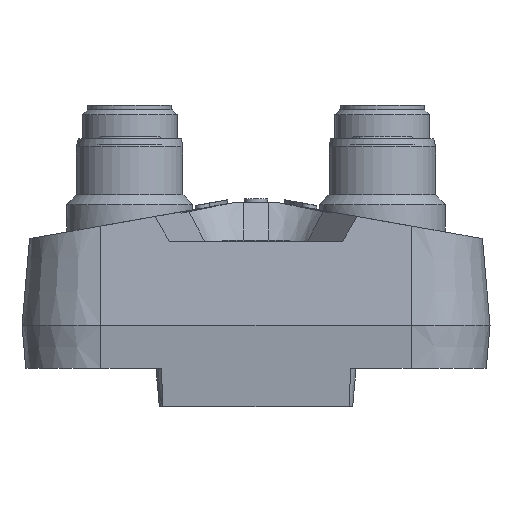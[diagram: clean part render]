
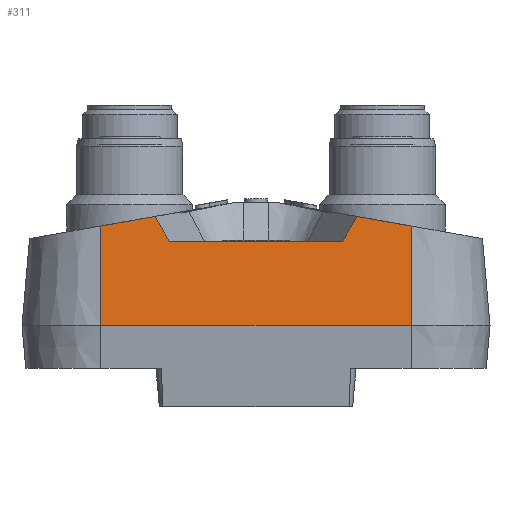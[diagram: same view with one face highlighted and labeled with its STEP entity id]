
A CAD part, front view. The second image highlights one B-rep face of the part: STEP entity #311.
In plain terms, the highlighted planar face has unit normal (0, -0.996, 0.087).
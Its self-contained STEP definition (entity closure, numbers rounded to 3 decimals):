
#311 = ADVANCED_FACE( '', ( #1087 ), #1088, .T. );
#1087 = FACE_OUTER_BOUND( '', #2151, .T. );
#1088 = PLANE( '', #2152 );
#2151 = EDGE_LOOP( '', ( #4338, #4339, #4340, #4341, #4342, #4343, #4344, #4345 ) );
#2152 = AXIS2_PLACEMENT_3D( '', #4346, #4347, #4348 );
#4338 = ORIENTED_EDGE( '', *, *, #6114, .F. );
#4339 = ORIENTED_EDGE( '', *, *, #6395, .F. );
#4340 = ORIENTED_EDGE( '', *, *, #6396, .T. );
#4341 = ORIENTED_EDGE( '', *, *, #5957, .T. );
#4342 = ORIENTED_EDGE( '', *, *, #6393, .F. );
#4343 = ORIENTED_EDGE( '', *, *, #6397, .F. );
#4344 = ORIENTED_EDGE( '', *, *, #6119, .F. );
#4345 = ORIENTED_EDGE( '', *, *, #6108, .F. );
#4346 = CARTESIAN_POINT( '', ( -19.65, 0., 0. ) );
#4347 = DIRECTION( '', ( 0., -0.996, 0.087 ) );
#4348 = DIRECTION( '', ( 0., -0.087, -0.996 ) );
#5957 = EDGE_CURVE( '', #7004, #7011, #7013, .T. );
#6108 = EDGE_CURVE( '', #7283, #7284, #7285, .F. );
#6114 = EDGE_CURVE( '', #7295, #7283, #7296, .F. );
#6119 = EDGE_CURVE( '', #7284, #7304, #7305, .F. );
#6393 = EDGE_CURVE( '', #7762, #7011, #7764, .T. );
#6395 = EDGE_CURVE( '', #7766, #7295, #7767, .F. );
#6396 = EDGE_CURVE( '', #7766, #7004, #7768, .T. );
#6397 = EDGE_CURVE( '', #7304, #7762, #7769, .F. );
#7004 = VERTEX_POINT( '', #8714 );
#7011 = VERTEX_POINT( '', #8729 );
#7013 = LINE( '', #8732, #8733 );
#7283 = VERTEX_POINT( '', #9117 );
#7284 = VERTEX_POINT( '', #9118 );
#7285 = LINE( '', #9119, #9120 );
#7295 = VERTEX_POINT( '', #9133 );
#7296 = LINE( '', #9134, #9135 );
#7304 = VERTEX_POINT( '', #9147 );
#7305 = LINE( '', #9148, #9149 );
#7762 = VERTEX_POINT( '', #9747 );
#7764 = LINE( '', #9749, #9750 );
#7766 = VERTEX_POINT( '', #9752 );
#7767 = LINE( '', #9753, #9754 );
#7768 = LINE( '', #9755, #9756 );
#7769 = LINE( '', #9757, #9758 );
#8714 = CARTESIAN_POINT( '', ( -19.65, 0., 0. ) );
#8729 = CARTESIAN_POINT( '', ( 19.65, 0., 0. ) );
#8732 = CARTESIAN_POINT( '', ( -19.65, 0., 0. ) );
#8733 = VECTOR( '', #10625, 1000. );
#9117 = CARTESIAN_POINT( '', ( -10.98, 0.932, 10.65 ) );
#9118 = CARTESIAN_POINT( '', ( 10.98, 0.932, 10.65 ) );
#9119 = CARTESIAN_POINT( '', ( -19.65, 0.932, 10.65 ) );
#9120 = VECTOR( '', #10908, 1000. );
#9133 = CARTESIAN_POINT( '', ( -12.816, 1.205, 13.775 ) );
#9134 = CARTESIAN_POINT( '', ( -8.531, 0.567, 6.481 ) );
#9135 = VECTOR( '', #10918, 1000. );
#9147 = CARTESIAN_POINT( '', ( 12.816, 1.205, 13.775 ) );
#9148 = CARTESIAN_POINT( '', ( -1.492, -0.926, -10.584 ) );
#9149 = VECTOR( '', #10923, 1000. );
#9747 = CARTESIAN_POINT( '', ( 19.65, 1.1, 12.57 ) );
#9749 = CARTESIAN_POINT( '', ( 19.65, 0., 0. ) );
#9750 = VECTOR( '', #11461, 1000. );
#9752 = CARTESIAN_POINT( '', ( -19.65, 1.1, 12.57 ) );
#9753 = CARTESIAN_POINT( '', ( -21.816, 1.066, 12.188 ) );
#9754 = VECTOR( '', #11465, 1000. );
#9755 = CARTESIAN_POINT( '', ( -19.65, 0., 0. ) );
#9756 = VECTOR( '', #11466, 1000. );
#9757 = CARTESIAN_POINT( '', ( -16.291, 1.654, 18.907 ) );
#9758 = VECTOR( '', #11467, 1000. );
#10625 = DIRECTION( '', ( 1., 0., 0. ) );
#10908 = DIRECTION( '', ( -1., 0., 0. ) );
#10918 = DIRECTION( '', ( -0.505, 0.075, 0.86 ) );
#10923 = DIRECTION( '', ( -0.505, -0.075, -0.86 ) );
#11461 = DIRECTION( '', ( 0., -0.087, -0.996 ) );
#11465 = DIRECTION( '', ( -0.985, -0.015, -0.174 ) );
#11466 = DIRECTION( '', ( 0., -0.087, -0.996 ) );
#11467 = DIRECTION( '', ( -0.985, 0.015, 0.174 ) );
